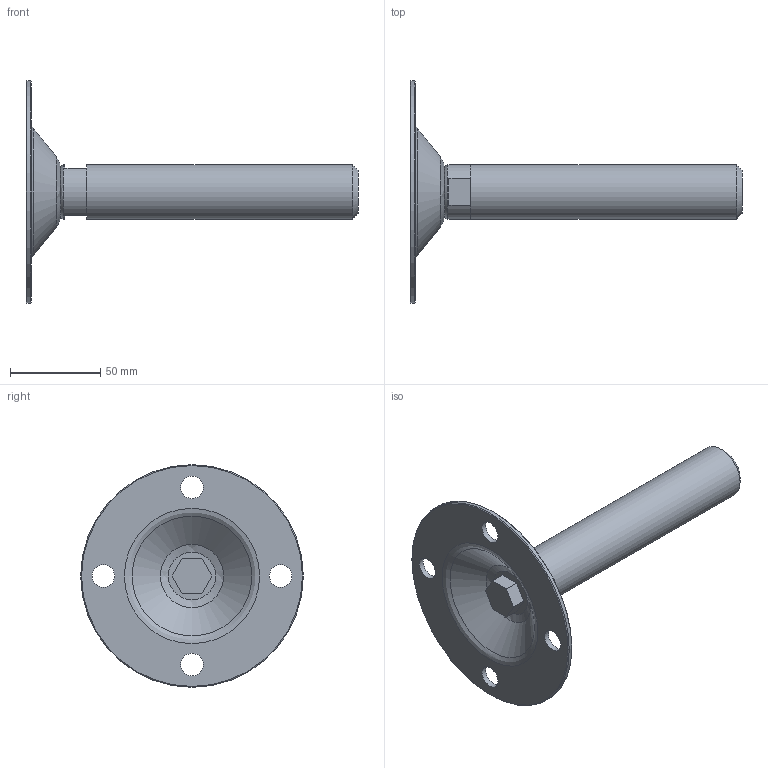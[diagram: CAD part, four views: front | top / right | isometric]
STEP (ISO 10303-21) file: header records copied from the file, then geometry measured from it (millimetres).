
FILE_DESCRIPTION(('STEP AP203'),'2;1');
FILE_NAME('15640Z.stp','2017-04-24T09:19:25',(''),(''),'2008.1.107','THINKDESIGN','');
FILE_SCHEMA(('CONFIG_CONTROL_DESIGN'));
Length unit declared in the file: millimetre
Bounding box: 183.5 x 123 x 123 mm (x, y, z)
Volume: 154582 mm3; surface area: 45449.5 mm2
Topology: 5 solids, 5 shells, 41 faces, 108 edges, 79 vertices
Faces by surface type: plane 22, bspline 10, cylinder 9
Full cylindrical faces by diameter (mm): 12.5 x4, 14 x2, 30 x2, 123 x1
Entity records: 1960 total; most frequent: CARTESIAN_POINT 783, DIRECTION 238, ORIENTED_EDGE 216, EDGE_CURVE 108, AXIS2_PLACEMENT_3D 99, VERTEX_POINT 79, CIRCLE 68, EDGE_LOOP 53
